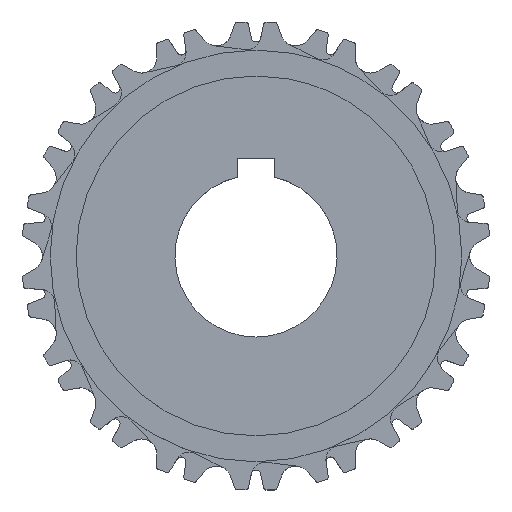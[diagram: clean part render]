
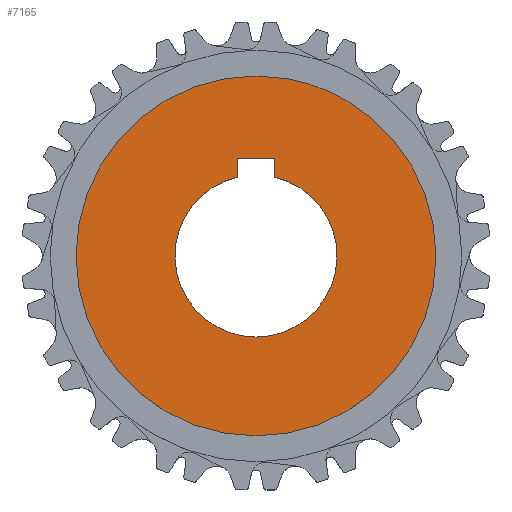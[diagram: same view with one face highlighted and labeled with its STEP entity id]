
A CAD part, top view. The second image highlights one B-rep face of the part: STEP entity #7165.
In plain terms, the highlighted planar face has unit normal (0, 0, 1).
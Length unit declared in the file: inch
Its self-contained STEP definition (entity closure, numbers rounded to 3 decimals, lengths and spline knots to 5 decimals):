
#1140=CARTESIAN_POINT('',(0.,0.,0.49));
#1141=DIRECTION('',(0.,0.,1.));
#1142=DIRECTION('',(0.174,0.985,0.));
#1143=AXIS2_PLACEMENT_3D('',#1140,#1141,#1142);
#1192=CARTESIAN_POINT('',(0.,0.,0.49));
#1193=DIRECTION('',(0.,0.,1.));
#1194=DIRECTION('',(0.5,0.866,0.));
#1195=AXIS2_PLACEMENT_3D('',#1192,#1193,#1194);
#1197=DIRECTION('',(0.,-1.,0.));
#1198=VECTOR('',#1197,0.25);
#1199=CARTESIAN_POINT('',(-0.25,1.3148,0.49));
#1200=LINE('',#1199,#1198);
#1201=CARTESIAN_POINT('',(0.,0.,0.49));
#1202=DIRECTION('',(0.,0.,1.));
#1203=DIRECTION('',(-0.229,0.974,0.));
#1204=AXIS2_PLACEMENT_3D('',#1201,#1202,#1203);
#1206=DIRECTION('',(0.,1.,0.));
#1207=VECTOR('',#1206,0.25);
#1208=CARTESIAN_POINT('',(0.25,1.0648,0.49));
#1209=LINE('',#1208,#1207);
#1210=DIRECTION('',(-1.,0.,0.));
#1211=VECTOR('',#1210,0.5);
#1212=CARTESIAN_POINT('',(0.25,1.3148,0.49));
#1213=LINE('',#1212,#1211);
#5691=CARTESIAN_POINT('',(0.42151,2.3905,0.49));
#5693=VERTEX_POINT('',#5691);
#5697=CARTESIAN_POINT('',(1.21369,2.10217,0.49));
#5698=VERTEX_POINT('',#5697);
#5711=CARTESIAN_POINT('',(-0.25,1.3148,0.49));
#5712=CARTESIAN_POINT('',(-0.25,1.0648,0.49));
#5713=VERTEX_POINT('',#5711);
#5714=VERTEX_POINT('',#5712);
#5715=CARTESIAN_POINT('',(0.25,1.0648,0.49));
#5716=VERTEX_POINT('',#5715);
#5717=CARTESIAN_POINT('',(0.25,1.3148,0.49));
#5718=VERTEX_POINT('',#5717);
#7150=CARTESIAN_POINT('',(0.,0.,0.49));
#7151=DIRECTION('',(0.,0.,1.));
#7152=DIRECTION('',(0.94,0.342,0.));
#7153=AXIS2_PLACEMENT_3D('',#7150,#7151,#7152);
#7154=PLANE('',#7153);
#7155=ORIENTED_EDGE('',*,*,#7038,.F.);
#7156=ORIENTED_EDGE('',*,*,#7069,.F.);
#7157=EDGE_LOOP('',(#7155,#7156));
#7158=FACE_OUTER_BOUND('',#7157,.F.);
#7159=ORIENTED_EDGE('',*,*,#7102,.T.);
#7160=ORIENTED_EDGE('',*,*,#7117,.T.);
#7161=ORIENTED_EDGE('',*,*,#7131,.T.);
#7162=ORIENTED_EDGE('',*,*,#7144,.T.);
#7163=EDGE_LOOP('',(#7159,#7160,#7161,#7162));
#7164=FACE_BOUND('',#7163,.F.);
#7165=ADVANCED_FACE('',(#7158,#7164),#7154,.T.);
#1144=CIRCLE('',#1143,2.42738);
#1196=CIRCLE('',#1195,2.42738);
#1205=CIRCLE('',#1204,1.09375);
#7038=EDGE_CURVE('',#5693,#5698,#1144,.T.);
#7069=EDGE_CURVE('',#5698,#5693,#1196,.T.);
#7102=EDGE_CURVE('',#5713,#5714,#1200,.T.);
#7117=EDGE_CURVE('',#5714,#5716,#1205,.T.);
#7131=EDGE_CURVE('',#5716,#5718,#1209,.T.);
#7144=EDGE_CURVE('',#5718,#5713,#1213,.T.);
